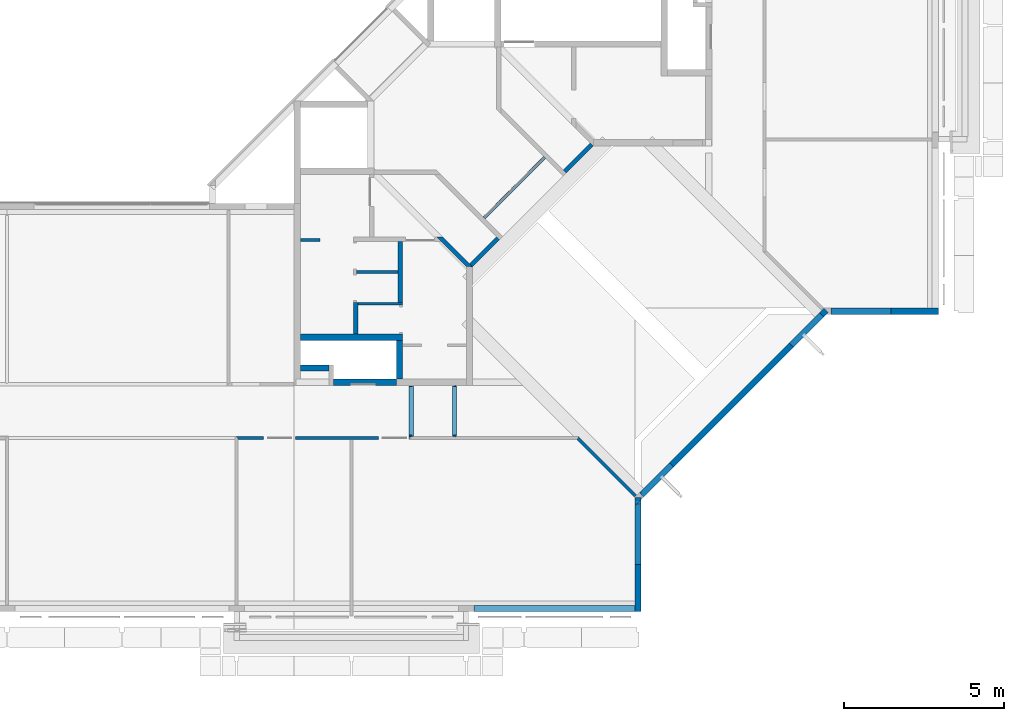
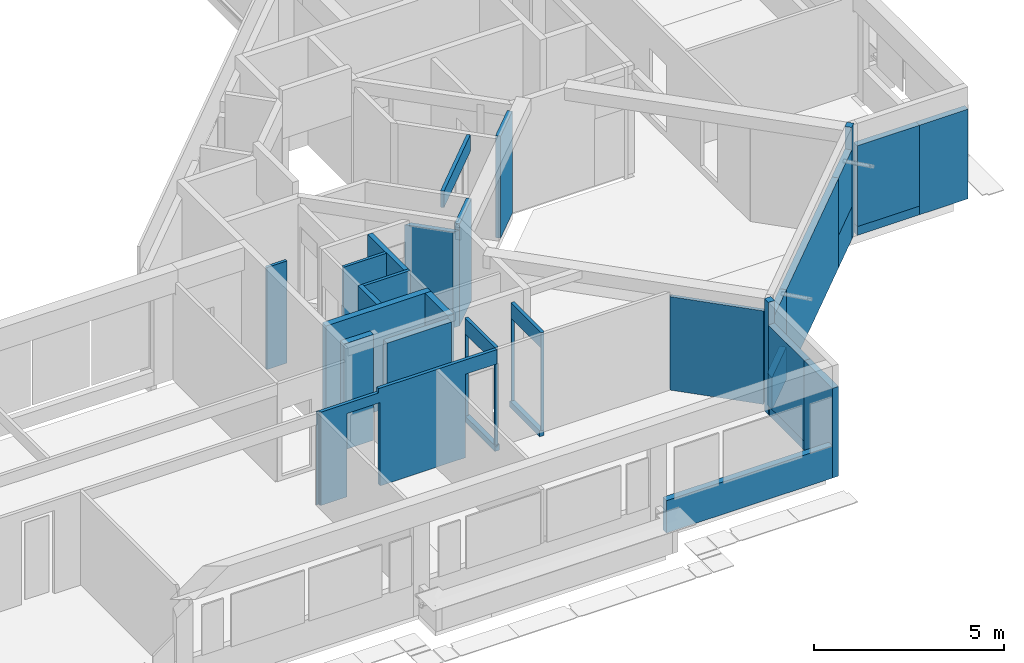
# One storey, part 12 of 38: 34 walls.
"""IFC4X3_ADD2 building model written with IfcOpenShell, lengths in millimetres."""

from ifc_helpers import new_model, si_unit, direction, frame, frame_2d, origin_with_axes, origin_2d_with_axis, place, context, subcontext, project, spatial, polyline, rectangle, outline, extrude, source, transform, mapped, material, type_object, type_shapes, element, save


model = new_model("IFC4X3_ADD2")

# Units and contexts
model_context = context("Model", 3, precision=1e-05, world=origin_with_axes(), true_north=direction((0.0, 1.0)))
body_context = subcontext(model_context, "Body", "Model", "MODEL_VIEW")
ifc_project = project(units=[si_unit("LENGTHUNIT", "METRE", prefix="MILLI"), si_unit("AREAUNIT", "SQUARE_METRE"), si_unit("VOLUMEUNIT", "CUBIC_METRE"), si_unit("PLANEANGLEUNIT", "RADIAN"), si_unit("TIMEUNIT", "SECOND"), si_unit("MASSUNIT", "GRAM")], contexts=[model_context])

# Site, building, storey
site_placement = place(None, origin_with_axes())
site = spatial("IfcSite", under=ifc_project, at=site_placement, Name="Site", CompositionType="ELEMENT")
building_placement = place(site_placement, origin_with_axes())
building = spatial("IfcBuilding", under=site, at=building_placement, Name="IFC Building Story")
storey_placement = place(building_placement, frame((0.0, 0.0, 10800.0), z_axis=(0.0, 0.0, 1.0), x_axis=(1.0, 0.0, 0.0)))
storey = spatial("IfcBuildingStorey", under=building, at=storey_placement, Name="030", Elevation=10800.0)

# Walls
ifc_material_1 = material(Name="BB_Beton_Bestaand")
wall_type_1 = type_object("IfcWallType", Name="BB_Beton_Bestaand 190", PredefinedType="NOTDEFINED", material=ifc_material_1)
wall_1_placement = place(storey_placement, origin_with_axes())
element("IfcWall", 1, at=wall_1_placement, inside=storey, type_object=wall_type_1, Name="Basic Wall:BB_XX_Wand uit beton, 190 mm", ObjectType="Basic Wall:BB_XX_Wand uit beton, 190 mm", PredefinedType="SOLIDWALL", context=body_context, shape_type="SweptSolid", body=[
    extrude(rectangle(XDim=5040.000000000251, YDim=190.0, at=origin_2d_with_axis()), frame((-11935.00000000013, 0.0, -200.0), z_axis=(0.0, 0.0, 1.0), x_axis=(1.0, 0.0, 0.0)), (0.0, 0.0, 1.0), 1040.0),
])
wall_2_placement = place(storey_placement, origin_with_axes())
element("IfcWall", 2, at=wall_2_placement, inside=storey, type_object=wall_type_1, Name="Basic Wall:BB_XX_Wand uit beton, 190 mm", ObjectType="Basic Wall:BB_XX_Wand uit beton, 190 mm", PredefinedType="SOLIDWALL", context=body_context, shape_type="SweptSolid", body=[
    extrude(rectangle(XDim=1480.0, YDim=190.0, at=frame_2d((0.0, 0.0), x_axis=(0.0, 1.0))), frame((-9320.0, 644.999999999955, -200.0), z_axis=(0.0, 0.0, 1.0), x_axis=(1.0, 0.0, 0.0)), (0.0, 0.0, 1.0), 2880.0),
])
wall_3_placement = place(storey_placement, origin_with_axes())
element("IfcWall", 3, at=wall_3_placement, inside=storey, type_object=wall_type_1, Name="Basic Wall:BB_XX_Wand uit beton, 190 mm", ObjectType="Basic Wall:BB_XX_Wand uit beton, 190 mm", PredefinedType="SOLIDWALL", context=body_context, shape_type="SweptSolid", body=[
    extrude(rectangle(XDim=1479.99999999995, YDim=190.0, at=origin_2d_with_axis()), frame((-644.999999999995, 9320.0, -200.0), z_axis=(0.0, 0.0, 1.0), x_axis=(1.0, 0.0, 0.0)), (0.0, 0.0, 1.0), 2880.0),
])
wall_4_placement = place(storey_placement, origin_with_axes())
element("IfcWall", 4, at=wall_4_placement, inside=storey, type_object=wall_type_1, Name="Basic Wall:BB_XX_Wand uit beton, 190 mm", ObjectType="Basic Wall:BB_XX_Wand uit beton, 190 mm", PredefinedType="SOLIDWALL", context=body_context, shape_type="SweptSolid", body=[
    extrude(rectangle(XDim=5311.437943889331, YDim=189.9999999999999, at=frame_2d((0.0, 0.0), x_axis=(0.7071067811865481, 0.7071067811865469))), frame((-6381.672618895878, 6381.67261889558, -200.0), z_axis=(0.0, 0.0, 1.0), x_axis=(1.0, 0.0, 0.0)), (0.0, 0.0, 1.0), 2880.0),
])
wall_5_placement = place(storey_placement, origin_with_axes())
element("IfcWall", 5, at=wall_5_placement, inside=storey, type_object=wall_type_1, Name="Basic Wall:BB_XX_Wand uit beton, 190 mm", ObjectType="Basic Wall:BB_XX_Wand uit beton, 190 mm", PredefinedType="SOLIDWALL", context=body_context, shape_type="SweptSolid", body=[
    extrude(outline(polyline([(549.9003877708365, 415.5500993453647), (-482.725243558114, -617.0755319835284), (-482.725243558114, -348.3749551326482), (415.550099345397, 549.9003877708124), (549.9003877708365, 415.5500993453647)])), frame((-8742.274756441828, 4021.070481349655, -200.0), z_axis=(0.0, 0.0, 1.0), x_axis=(1.0, 0.0, 0.0)), (0.0, 0.0, 1.0), 1040.0),
])
wall_6_placement = place(storey_placement, origin_with_axes())
element("IfcWall", 6, at=wall_6_placement, inside=storey, type_object=wall_type_1, Name="Basic Wall:BB_XX_Wand uit beton, 190 mm", ObjectType="Basic Wall:BB_XX_Wand uit beton, 190 mm", PredefinedType="SOLIDWALL", context=body_context, shape_type="SweptSolid", body=[
    extrude(rectangle(XDim=1331.35822331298, YDim=190.0, at=frame_2d((0.0, 0.0), x_axis=(0.7071067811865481, 0.7071067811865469))), frame((-4033.089510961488, 8730.25572682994, -200.0), z_axis=(0.0, 0.0, 1.0), x_axis=(1.0, 0.0, 0.0)), (0.0, 0.0, 1.0), 1040.0),
])
wall_7_placement = place(storey_placement, origin_with_axes())
element("IfcWall", 7, at=wall_7_placement, inside=storey, type_object=wall_type_1, Name="Basic Wall:BB_XX_Wand uit beton, 190 mm", ObjectType="Basic Wall:BB_XX_Wand uit beton, 190 mm", PredefinedType="SOLIDWALL", context=body_context, shape_type="SweptSolid", body=[
    extrude(rectangle(XDim=207.695526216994, YDim=190.0, at=frame_2d((0.0, 0.0), x_axis=(0.0, 1.0))), frame((-9320.0, 3378.847763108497, -200.0), z_axis=(0.0, 0.0, 1.0), x_axis=(1.0, 0.0, 0.0)), (0.0, 0.0, 1.0), 3600.0),
])
wall_8_placement = place(storey_placement, origin_with_axes())
element("IfcWall", 8, at=wall_8_placement, inside=storey, type_object=wall_type_1, Name="Basic Wall:BB_XX_Wand uit beton, 190 mm", ObjectType="Basic Wall:BB_XX_Wand uit beton, 190 mm", PredefinedType="SOLIDWALL", context=body_context, shape_type="SweptSolid", body=[
    extrude(rectangle(XDim=207.6955262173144, YDim=189.9999999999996, at=frame_2d((0.0, 0.0), x_axis=(0.7071067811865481, 0.7071067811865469))), frame((-3488.951839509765, 9274.393398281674, -200.0), z_axis=(0.0, 0.0, 1.0), x_axis=(1.0, 0.0, 0.0)), (0.0, 0.0, 1.0), 3600.000000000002),
])
wall_9_placement = place(storey_placement, origin_with_axes())
element("IfcWall", 9, at=wall_9_placement, inside=storey, type_object=wall_type_1, Name="Basic Wall:BB_XX_Wand uit beton, 190 mm", ObjectType="Basic Wall:BB_XX_Wand uit beton, 190 mm", PredefinedType="SOLIDWALL", context=body_context, shape_type="SweptSolid", body=[
    extrude(rectangle(XDim=2018.99494936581, YDim=190.0, at=frame_2d((0.0, 0.0), x_axis=(0.0, 1.0))), frame((-9320.0, 2394.497474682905, -200.0), z_axis=(0.0, 0.0, 1.0), x_axis=(1.0, 0.0, 0.0)), (0.0, 0.0, 1.0), 279.999999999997),
])
wall_10_placement = place(storey_placement, origin_with_axes())
element("IfcWall", 10, at=wall_10_placement, inside=storey, type_object=wall_type_1, Name="Basic Wall:BB_XX_Wand uit beton, 190 mm", ObjectType="Basic Wall:BB_XX_Wand uit beton, 190 mm", PredefinedType="SOLIDWALL", context=body_context, shape_type="SweptSolid", body=[
    extrude(rectangle(XDim=1890.00000000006, YDim=190.0, at=origin_2d_with_axis()), frame((-2330.0, 9320.0, -200.0), z_axis=(0.0, 0.0, 1.0), x_axis=(1.0, 0.0, 0.0)), (0.0, 0.0, 1.0), 279.999999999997),
])
wall_11_placement = place(storey_placement, origin_with_axes())
element("IfcWall", 11, at=wall_11_placement, inside=storey, type_object=wall_type_1, Name="Basic Wall:BB_XX_Wand uit beton, 190 mm", ObjectType="Basic Wall:BB_XX_Wand uit beton, 190 mm", PredefinedType="SOLIDWALL", context=body_context, shape_type="SweptSolid", body=[
    extrude(outline(polyline([(95.0, 1056.997474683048), (95.0, -961.9974746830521), (-95.0, -961.9974746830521), (-95.0, 866.9974746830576), (95.0, 1056.997474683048)])), frame((-9320.0, 2346.997474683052, -200.0), z_axis=(0.0, 0.0, 1.0), x_axis=(1.0, 0.0, 0.0)), (0.0, 0.0, 1.0), 279.999999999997),
])
ifc_material_2 = material(Name="BB_Metselwerk_Bestaand")
wall_type_2 = type_object("IfcWallType", Name="BB_Metselwerk_Bestaand 140", PredefinedType="NOTDEFINED", material=ifc_material_2)
wall_12_placement = place(storey_placement, origin_with_axes())
element("IfcWall", 12, at=wall_12_placement, inside=storey, type_object=wall_type_2, Name="Basic Wall:BB_XX_Wand uit metselwerk, 140 mm", ObjectType="Basic Wall:BB_XX_Wand uit metselwerk, 140 mm", PredefinedType="SOLIDWALL", context=body_context, shape_type="SweptSolid", body=[
    extrude(outline(polyline([(366.9974746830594, -465.9924240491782), (-565.9924240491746, 466.9974746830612), (-368.0025253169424, 466.9974746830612), (566.9974746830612, -468.002525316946), (366.9974746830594, -465.9924240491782)])), frame((-15066.99747468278, 11183.00252531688, -80.0), z_axis=(0.0, 0.0, 1.0), x_axis=(1.0, 0.0, 0.0)), (0.0, 0.0, 1.0), 3080.0),
])
wall_13_placement = place(storey_placement, origin_with_axes())
element("IfcWall", 13, at=wall_13_placement, inside=storey, type_object=wall_type_2, Name="Basic Wall:BB_XX_Wand uit metselwerk, 140 mm", ObjectType="Basic Wall:BB_XX_Wand uit metselwerk, 140 mm", PredefinedType="SOLIDWALL", context=body_context, shape_type="SweptSolid", body=[
    extrude(rectangle(XDim=1000.0, YDim=140.0, at=frame_2d((0.0, 0.0), x_axis=(0.0, 1.0))), frame((-18170.0, 9100.0, -80.0), z_axis=(0.0, 0.0, 1.0), x_axis=(1.0, 0.0, 0.0)), (0.0, 0.0, 1.0), 3280.0),
])
wall_14_placement = place(storey_placement, origin_with_axes())
element("IfcWall", 14, at=wall_14_placement, inside=storey, type_object=wall_type_2, Name="Basic Wall:BB_XX_Wand uit metselwerk, 140 mm", ObjectType="Basic Wall:BB_XX_Wand uit metselwerk, 140 mm", PredefinedType="SOLIDWALL", context=body_context, shape_type="SweptSolid", body=[
    extrude(rectangle(XDim=1910.00000000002, YDim=140.0, at=frame_2d((0.0, 0.0), x_axis=(0.0, 1.0))), frame((-16770.0, 10554.99999999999, -80.0), z_axis=(0.0, 0.0, 1.0), x_axis=(1.0, 0.0, 0.0)), (0.0, 0.0, 1.0), 3280.0),
])
wall_type_3 = type_object("IfcWallType", Name="BB_Metselwerk_Bestaand 190", PredefinedType="NOTDEFINED", material=ifc_material_2)
wall_15_placement = place(storey_placement, origin_with_axes())
element("IfcWall", 15, at=wall_15_placement, inside=storey, type_object=wall_type_3, Name="Basic Wall:BB_XX_Wand uit metselwerk, 190 mm", ObjectType="Basic Wall:BB_XX_Wand uit metselwerk, 190 mm", PredefinedType="SOLIDWALL", context=body_context, shape_type="SweptSolid", body=[
    extrude(rectangle(XDim=1970.164079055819, YDim=190.0, at=origin_2d_with_axis()), frame((-17875.08203952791, 7095.0, -200.0), z_axis=(0.0, 0.0, 1.0), x_axis=(1.0, 0.0, 0.0)), (0.0, 0.0, 1.0), 3340.0),
])
wall_16_placement = place(storey_placement, origin_with_axes())
element("IfcWall", 16, at=wall_16_placement, inside=storey, type_object=wall_type_3, Name="Basic Wall:BB_XX_Wand uit metselwerk, 190 mm", ObjectType="Basic Wall:BB_XX_Wand uit metselwerk, 190 mm", PredefinedType="SOLIDWALL", context=body_context, shape_type="SweptSolid", body=[
    extrude(rectangle(XDim=899.8359209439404, YDim=190.0, at=origin_2d_with_axis()), frame((-19450.08203952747, 7545.0, -200.0), z_axis=(0.0, 0.0, 1.0), x_axis=(1.0, 0.0, 0.0)), (0.0, 0.0, 1.0), 3400.0),
])
wall_17_placement = place(storey_placement, origin_with_axes())
element("IfcWall", 17, at=wall_17_placement, inside=storey, type_object=wall_type_3, Name="Basic Wall:BB_XX_Wand uit metselwerk, 190 mm", ObjectType="Basic Wall:BB_XX_Wand uit metselwerk, 190 mm", PredefinedType="SOLIDWALL", context=body_context, shape_type="SweptSolid", body=[
    extrude(rectangle(XDim=3199.884221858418, YDim=190.0, at=origin_2d_with_axis()), frame((-18300.05788907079, 8505.0, -80.0), z_axis=(0.0, 0.0, 1.0), x_axis=(1.0, 0.0, 0.0)), (0.0, 0.0, 1.0), 3280.0),
])
wall_18_placement = place(storey_placement, origin_with_axes())
element("IfcWall", 18, at=wall_18_placement, inside=storey, type_object=wall_type_3, Name="Basic Wall:BB_XX_Wand uit metselwerk, 190 mm", ObjectType="Basic Wall:BB_XX_Wand uit metselwerk, 190 mm", PredefinedType="SOLIDWALL", context=body_context, shape_type="SweptSolid", body=[
    extrude(rectangle(XDim=1210.00000000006, YDim=190.0, at=frame_2d((0.0, 0.0), x_axis=(0.0, 1.0))), frame((-16795.1157781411, 7804.99999999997, -80.0), z_axis=(0.0, 0.0, 1.0), x_axis=(1.0, 0.0, 0.0)), (0.0, 0.0, 1.0), 3280.0),
])
ifc_material_3 = material(Name="BB_Metselwerk_Betonsteen")
wall_type_4 = type_object("IfcWallType", Name="BB_Metselwerk_Betonsteen 190", PredefinedType="NOTDEFINED", material=ifc_material_3)
wall_19_placement = place(storey_placement, origin_with_axes())
element("IfcWall", 19, at=wall_19_placement, inside=storey, type_object=wall_type_4, Name="Basic Wall:BB_03.09.24#03_Wand uit metselwerk, 190 mm", ObjectType="Basic Wall:BB_03.09.24#03_Wand uit metselwerk, 190 mm", PredefinedType="SOLIDWALL", context=body_context, shape_type="SweptSolid", body=[
    extrude(rectangle(XDim=1890.00000000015, YDim=190.0, at=frame_2d((0.0, 0.0), x_axis=(0.0, 1.0))), frame((-9320.0, 2329.999999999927, 80.0), z_axis=(0.0, 0.0, 1.0), x_axis=(1.0, 0.0, 0.0)), (0.0, 0.0, 1.0), 2600.0),
])
wall_20_placement = place(storey_placement, origin_with_axes())
element("IfcWall", 20, at=wall_20_placement, inside=storey, type_object=wall_type_4, Name="Basic Wall:BB_03.09.24#03_Wand uit metselwerk, 190 mm", ObjectType="Basic Wall:BB_03.09.24#03_Wand uit metselwerk, 190 mm", PredefinedType="SOLIDWALL", context=body_context, shape_type="SweptSolid", body=[
    extrude(rectangle(XDim=1890.00000000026, YDim=190.0, at=origin_2d_with_axis()), frame((-2329.99999999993, 9320.0, 80.0), z_axis=(0.0, 0.0, 1.0), x_axis=(1.0, 0.0, 0.0)), (0.0, 0.0, 1.0), 2600.0),
])
wall_21_placement = place(storey_placement, origin_with_axes())
element("IfcWall", 21, at=wall_21_placement, inside=storey, type_object=wall_type_4, Name="Basic Wall:BB_03.09.24#03_Wand uit metselwerk, 190 mm", ObjectType="Basic Wall:BB_03.09.24#03_Wand uit metselwerk, 190 mm", PredefinedType="SOLIDWALL", context=body_context, shape_type="SweptSolid", body=[
    extrude(rectangle(XDim=1331.35822331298, YDim=190.0, at=frame_2d((0.0, 0.0), x_axis=(0.7071067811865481, 0.7071067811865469))), frame((-4033.089510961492, 8730.25572682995, 840.0), z_axis=(0.0, 0.0, 1.0), x_axis=(1.0, 0.0, 0.0)), (0.0, 0.0, 1.0), 1840.0),
])
wall_22_placement = place(storey_placement, origin_with_axes())
element("IfcWall", 22, at=wall_22_placement, inside=storey, type_object=wall_type_4, Name="Basic Wall:BB_03.09.24#03_Wand uit metselwerk, 190 mm", ObjectType="Basic Wall:BB_03.09.24#03_Wand uit metselwerk, 190 mm", PredefinedType="SOLIDWALL", context=body_context, shape_type="SweptSolid", body=[
    extrude(rectangle(XDim=1331.0, YDim=190.0, at=frame_2d((0.0, 0.0), x_axis=(0.7071067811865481, 0.7071067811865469))), frame((-8730.129075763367, 4033.216162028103, 840.0), z_axis=(0.0, 0.0, 1.0), x_axis=(1.0, 0.0, 0.0)), (0.0, 0.0, 1.0), 1840.0),
])
wall_type_5 = type_object("IfcWallType", Name="Basic Wall_BB_10.01.41#21_Gipskartonwand_EI60_43dB_MS100 _ 25.50.25_ 100 mm81", PredefinedType="NOTDEFINED")
shared_shape_1 = source(origin_with_axes(), body_context, "Body", "SweptSolid", [
    extrude(outline(polyline([(-1281.275160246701, 6.249999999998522), (1287.525160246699, 6.250000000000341), (1287.525160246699, -6.249999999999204), (-1293.775160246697, -6.249999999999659), (-1281.275160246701, 6.249999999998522)])), frame((1257.53147353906, 43.74999999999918, 0.0), z_axis=(0.0, 0.0, 1.0), x_axis=(1.0, 0.0, 0.0)), (0.0, 0.0, 1.0), 3005.0),
    extrude(outline(polyline([(-1291.18632548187, -6.250000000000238), (-1278.68632548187, 6.250000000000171), (1284.93632548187, 6.250000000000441), (1284.93632548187, -6.250000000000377), (-1291.18632548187, -6.250000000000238)])), frame((1260.12030830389, 31.25000000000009, 0.0), z_axis=(0.0, 0.0, 1.0), x_axis=(1.0, 0.0, 0.0)), (0.0, 0.0, 1.0), 3005.0),
    extrude(outline(polyline([(-1290.20598642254, -25.00000000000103), (-1240.20598642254, 25.0), (1265.20598642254, 25.0), (1265.20598642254, -24.99999999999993), (-1290.20598642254, -25.00000000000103)])), frame((1279.85064736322, 0.0, 0.0), z_axis=(0.0, 0.0, 1.0), x_axis=(1.0, 0.0, 0.0)), (0.0, 0.0, 1.0), 3005.0),
    extrude(outline(polyline([(-1278.24215165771, -6.249999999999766), (-1265.74215165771, 6.249999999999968), (1271.99215165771, 6.249999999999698), (1271.99215165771, -6.249999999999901), (-1278.24215165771, -6.249999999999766)])), frame((1273.06448212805, -31.25000000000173, 0.0), z_axis=(0.0, 0.0, 1.0), x_axis=(1.0, 0.0, 0.0)), (0.0, 0.0, 1.0), 3005.0),
    extrude(outline(polyline([(1269.40331689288, -6.250000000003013), (-1275.65331689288, -6.249999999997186), (-1263.15331689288, 6.250000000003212), (1269.40331689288, 6.249999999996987), (1269.40331689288, -6.250000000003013)])), frame((1275.65331689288, -43.75000000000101, 0.0), z_axis=(0.0, 0.0, 1.0), x_axis=(1.0, 0.0, 0.0)), (0.0, 0.0, 1.0), 3005.0),
])
type_shapes(wall_type_5, [shared_shape_1])
wall_23_placement = place(storey_placement, frame((-11196.949134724, 5335.35533905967, -5.0), z_axis=(0.0, 0.0, 1.0), x_axis=(0.7071067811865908, -0.7071067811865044, 0.0)))
element("IfcWall", 23, at=wall_23_placement, inside=storey, type_object=wall_type_5, Name="Basic Wall:BB_10.01.41#21_Gipskartonwand_EI60_43dB_MS100 / 25.50.25, 100 mm", ObjectType="Basic Wall:BB_10.01.41#21_Gipskartonwand_EI60_43dB_MS100 / 25.50.25, 100 mm", PredefinedType="PARTITIONING", context=body_context, shape_type="MappedRepresentation", body=[
    mapped(shared_shape_1, transform((0.0, 0.0, 0.0))),
])
wall_type_6 = type_object("IfcWallType", Name="Basic Wall_BB_10.01.41#03_Gipskartonwand_43dB_MS100 _ 25.50.25_ 100 mm71", PredefinedType="NOTDEFINED")
shared_shape_2 = source(origin_with_axes(), body_context, "Body", "SweptSolid", [
    extrude(outline(polyline([(-2064.583333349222, 1916.666666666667), (535.4166666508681, 1916.666666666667), (535.4166666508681, -763.3333333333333), (1535.416666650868, -763.3333333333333), (1535.416666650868, 1916.666666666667), (2422.916666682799, 1916.666666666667), (2422.916666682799, -1083.333333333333), (585.4166666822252, -1083.333333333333), (585.4166666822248, -1223.333333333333), (-3014.583333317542, -1223.333333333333), (-3014.583333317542, -763.3333333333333), (-2064.583333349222, -763.3333333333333), (-2064.583333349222, 1916.666666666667)])), frame((3014.583333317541, -50.0, 1916.666666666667), z_axis=(0.0, 1.0, 0.0), x_axis=(1.0, 0.0, 0.0)), (0.0, 0.0, 1.0), 12.5000000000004),
    extrude(outline(polyline([(1537.499999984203, -763.3333333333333), (1537.499999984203, 1916.666666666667), (2412.500000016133, 1916.666666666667), (2412.500000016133, -1083.333333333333), (587.5000000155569, -1083.333333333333), (587.5000000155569, -1223.333333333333), (-3012.499999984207, -1223.333333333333), (-3012.499999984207, -763.3333333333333), (-2062.500000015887, -763.3333333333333), (-2062.500000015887, 1916.666666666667), (537.4999999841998, 1916.666666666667), (537.4999999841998, -763.3333333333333), (1537.499999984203, -763.3333333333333)])), frame((3012.499999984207, -37.5000000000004, 1916.666666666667), z_axis=(0.0, 1.0, 0.0), x_axis=(1.0, 0.0, 0.0)), (0.0, 0.0, 1.0), 12.5000000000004),
    extrude(outline(polyline([(1545.833333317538, -763.3333333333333), (1545.833333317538, 1916.666666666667), (2370.833333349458, 1916.666666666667), (2370.833333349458, -1083.333333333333), (595.8333333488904, -1083.333333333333), (595.8333333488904, -1223.333333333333), (-3004.166666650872, -1223.333333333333), (-3004.166666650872, -763.3333333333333), (-2054.166666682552, -763.3333333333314), (-2054.166666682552, 1916.666666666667), (545.8333333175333, 1916.666666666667), (545.8333333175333, -763.3333333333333), (1545.833333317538, -763.3333333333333)])), frame((3004.166666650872, -24.9999999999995, 1916.666666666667), z_axis=(0.0, 1.0, 0.0), x_axis=(1.0, 0.0, 0.0)), (0.0, 0.0, 1.0), 49.9999999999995),
    extrude(outline(polyline([(1547.916666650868, -763.3333333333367), (1547.916666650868, 1916.666666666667), (2360.416666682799, 1916.666666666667), (2360.416666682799, -1083.333333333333), (597.9166666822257, -1083.333333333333), (597.9166666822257, -1223.333333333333), (-3002.083333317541, -1223.333333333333), (-3002.083333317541, -763.333333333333), (-2052.083333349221, -763.333333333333), (-2052.083333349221, 1916.666666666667), (547.916666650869, 1916.666666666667), (547.9166666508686, -763.333333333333), (1547.916666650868, -763.3333333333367)])), frame((3002.083333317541, 24.9999999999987, 1916.666666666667), z_axis=(0.0, 1.0, 0.0), x_axis=(1.0, 0.0, 0.0)), (0.0, 0.0, 1.0), 12.5000000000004),
    extrude(outline(polyline([(2350.000000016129, 1916.666666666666), (2350.000000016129, -1083.333333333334), (600.0000000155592, -1083.333333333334), (600.0000000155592, -1223.333333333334), (-2999.999999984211, -1223.333333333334), (-2999.999999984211, -763.3333333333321), (-2050.000000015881, -763.3333333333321), (-2050.000000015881, 1916.666666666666), (549.9999999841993, 1916.666666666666), (549.9999999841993, -763.3333333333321), (1549.9999999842, -763.3333333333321), (1549.9999999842, 1916.666666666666), (2350.000000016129, 1916.666666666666)])), frame((2999.999999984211, 37.50000000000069, 1916.666666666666), z_axis=(0.0, 1.0, 0.0), x_axis=(1.0, 0.0, 0.0)), (0.0, 0.0, 1.0), 12.49999999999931),
])
type_shapes(wall_type_6, [shared_shape_2])
wall_24_placement = place(storey_placement, frame((-16500.0, 5350.0, 0.0), z_axis=(0.0, 0.0, 1.0), x_axis=(-1.0, 0.0, 0.0)))
element("IfcWall", 24, at=wall_24_placement, inside=storey, type_object=wall_type_6, Name="Basic Wall:BB_10.01.41#03_Gipskartonwand_43dB_MS100 / 25.50.25, 100 mm", ObjectType="Basic Wall:BB_10.01.41#03_Gipskartonwand_43dB_MS100 / 25.50.25, 100 mm", PredefinedType="PARTITIONING", context=body_context, shape_type="MappedRepresentation", body=[
    mapped(shared_shape_2, transform((0.0, 0.0, 0.0))),
])
wall_type_7 = type_object("IfcWallType", Name="Basic Wall_BB_10.01.41#21_Gipskartonwand_EI60_43dB_MS100 _ 25.50.25_ 100 mm85", PredefinedType="NOTDEFINED")
shared_shape_3 = source(origin_with_axes(), body_context, "Body", "SweptSolid", [
    extrude(outline(polyline([(-514.5833333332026, 969.1666666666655), (-479.5833333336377, 969.1666666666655), (-479.5833333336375, -1680.833333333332), (1040.416666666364, -1680.833333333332), (1040.416666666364, 969.1666666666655), (1070.416666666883, 969.1666666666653), (1070.416666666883, -2180.833333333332), (-514.5833333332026, -2180.833333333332), (-514.5833333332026, 959.1666666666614), (-602.0833333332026, 959.1666666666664), (-602.0833333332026, 964.1666666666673), (-514.5833333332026, 964.1666666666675), (-514.5833333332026, 969.1666666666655)])), frame((514.5833333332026, 37.50000000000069, 969.1666666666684), z_axis=(0.0, 1.0, 0.0), x_axis=(1.0, 0.0, 0.0)), (0.0, 0.0, 1.0), 12.49999999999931),
    extrude(outline(polyline([(-516.6666666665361, 969.1666666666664), (-481.6666666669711, 969.1666666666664), (-481.666666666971, -1680.833333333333), (1038.33333333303, -1680.833333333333), (1038.33333333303, 969.1666666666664), (1068.33333333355, 969.1666666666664), (1068.33333333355, -2180.833333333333), (-516.6666666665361, -2180.833333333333), (-516.6666666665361, 959.1666666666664), (-591.6666666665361, 959.1666666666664), (-591.6666666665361, 964.1666666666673), (-516.6666666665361, 964.1666666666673), (-516.6666666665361, 969.1666666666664)])), frame((516.6666666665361, 24.999999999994, 969.1666666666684), z_axis=(0.0, 1.0, 0.0), x_axis=(1.0, 0.0, 0.0)), (0.0, 0.0, 1.0), 12.4999999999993),
    extrude(outline(polyline([(-524.9999999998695, 969.1666666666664), (-490.0000000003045, 969.1666666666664), (-490.0000000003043, -1680.833333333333), (1029.999999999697, -1680.833333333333), (1029.999999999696, 969.1666666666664), (1060.000000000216, 969.1666666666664), (1060.000000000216, -2180.833333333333), (-524.9999999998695, -2180.833333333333), (-524.9999999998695, 959.1666666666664), (-549.9999999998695, 959.1666666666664), (-549.9999999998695, 964.1666666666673), (-524.9999999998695, 964.1666666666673), (-524.9999999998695, 969.1666666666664)])), frame((524.9999999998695, -25.0000000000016, 969.1666666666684), z_axis=(0.0, 1.0, 0.0), x_axis=(1.0, 0.0, 0.0)), (0.0, 0.0, 1.0), 50.00000000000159),
    extrude(outline(polyline([(-527.0833333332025, 969.1666666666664), (-492.0833333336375, 969.1666666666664), (-492.0833333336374, -1680.833333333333), (1027.916666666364, -1680.833333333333), (1027.916666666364, 969.1666666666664), (1057.916666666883, 969.1666666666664), (1057.916666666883, -2180.833333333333), (-527.0833333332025, -2180.833333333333), (-527.0833333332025, 959.1666666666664), (-539.5833333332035, 959.1666666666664), (-539.5833333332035, 964.1666666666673), (-527.0833333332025, 964.1666666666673), (-527.0833333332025, 969.1666666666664)])), frame((527.0833333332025, -37.49999999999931, 969.1666666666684), z_axis=(0.0, 1.0, 0.0), x_axis=(1.0, 0.0, 0.0)), (0.0, 0.0, 1.0), 12.49999999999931),
    extrude(outline(polyline([(-793.7499999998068, 1450.0), (-758.7500000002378, 1450.0), (-758.7500000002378, -1200.000000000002), (761.249999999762, -1200.0), (761.249999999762, 1450.0), (791.2500000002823, 1450.0), (791.2500000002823, -1700.0), (-793.7499999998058, -1700.0), (-793.7499999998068, 1450.0)])), frame((793.7499999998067, -49.9999999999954, 1450.0), z_axis=(0.0, 1.0, 0.0), x_axis=(1.0, 0.0, 0.0)), (0.0, 0.0, 1.0), 12.49999999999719),
])
type_shapes(wall_type_7, [shared_shape_3])
wall_25_placement = place(storey_placement, frame((-16450.0, 5400.0, -10.0), z_axis=(0.0, 0.0, 1.0), x_axis=(0.0, 1.0, 0.0)))
element("IfcWall", 25, at=wall_25_placement, inside=storey, type_object=wall_type_7, Name="Basic Wall:BB_10.01.41#21_Gipskartonwand_EI60_43dB_MS100 / 25.50.25, 100 mm", ObjectType="Basic Wall:BB_10.01.41#21_Gipskartonwand_EI60_43dB_MS100 / 25.50.25, 100 mm", PredefinedType="PARTITIONING", context=body_context, shape_type="MappedRepresentation", body=[
    mapped(shared_shape_3, transform((0.0, 0.0, 0.0))),
])
wall_type_8 = type_object("IfcWallType", Name="Basic Wall_BB_10.01.41#21_Gipskartonwand_EI60_43dB_MS100 _ 25.50.25_ 100 mm87", PredefinedType="NOTDEFINED")
shared_shape_4 = source(origin_with_axes(), body_context, "Body", "SweptSolid", [
    extrude(outline(polyline([(-793.7499999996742, 1450.0), (-758.7500000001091, 1450.0), (-758.7500000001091, -1200.000000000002), (761.2499999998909, -1200.000000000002), (761.2499999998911, 1450.0), (791.249999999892, 1450.0), (791.249999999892, -1699.999999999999), (-793.7499999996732, -1699.999999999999), (-793.7499999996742, 1450.0)])), frame((793.7499999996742, 37.50000000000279, 1450.0), z_axis=(0.0, 1.0, 0.0), x_axis=(1.0, 0.0, 0.0)), (0.0, 0.0, 1.0), 12.49999999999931),
    extrude(outline(polyline([(-632.499999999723, 1161.000000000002), (-597.50000000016, 1161.000000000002), (-597.5000000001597, -1489.000000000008), (922.4999999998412, -1489.000000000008), (922.4999999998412, 1161.000000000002), (952.4999999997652, 1161.000000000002), (952.4999999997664, -1988.999999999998), (-644.999999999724, -1988.999999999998), (-644.999999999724, 1156.000000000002), (-632.499999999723, 1156.000000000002), (-632.499999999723, 1161.000000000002)])), frame((632.499999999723, 25.0, 1161.000000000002), z_axis=(0.0, 1.0, 0.0), x_axis=(1.0, 0.0, 0.0)), (0.0, 0.0, 1.0), 12.49999999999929),
    extrude(outline(polyline([(-791.6666666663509, 1415.833333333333), (-756.6666666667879, 1415.833333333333), (-756.6666666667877, -1234.166666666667), (763.3333333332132, -1234.166666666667), (763.3333333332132, 1415.833333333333), (808.3333333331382, 1415.833333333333), (808.3333333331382, -1274.166666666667), (793.3333333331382, -1274.166666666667), (793.3333333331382, -1734.166666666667), (-816.6666666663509, -1734.166666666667), (-816.6666666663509, 1410.833333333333), (-791.6666666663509, 1410.833333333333), (-791.6666666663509, 1415.833333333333)])), frame((791.6666666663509, -25.0000000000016, 1415.833333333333), z_axis=(0.0, 1.0, 0.0), x_axis=(1.0, 0.0, 0.0)), (0.0, 0.0, 1.0), 50.00000000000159),
    extrude(outline(polyline([(-793.7499999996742, 1450.0), (-758.7500000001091, 1450.0), (-758.7500000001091, -1200.000000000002), (761.2499999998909, -1200.000000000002), (761.2499999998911, 1450.0), (791.249999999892, 1450.0), (791.249999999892, -1699.999999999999), (-793.7499999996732, -1699.999999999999), (-793.7499999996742, 1450.0)])), frame((793.749999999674, -37.49999999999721, 1450.0), z_axis=(0.0, 1.0, 0.0), x_axis=(1.0, 0.0, 0.0)), (0.0, 0.0, 1.0), 12.5000000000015),
    extrude(outline(polyline([(-793.7499999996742, 1450.0), (-758.7500000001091, 1450.0), (-758.7500000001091, -1200.000000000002), (761.2499999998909, -1200.000000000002), (761.2499999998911, 1450.0), (791.249999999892, 1450.0), (791.249999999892, -1699.999999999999), (-793.7499999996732, -1699.999999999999), (-793.7499999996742, 1450.0)])), frame((793.7499999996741, -49.99999999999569, 1450.0), z_axis=(0.0, 1.0, 0.0), x_axis=(1.0, 0.0, 0.0)), (0.0, 0.0, 1.0), 12.4999999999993),
])
type_shapes(wall_type_8, [shared_shape_4])
wall_26_placement = place(storey_placement, frame((-15050.0, 5400.0, -10.0), z_axis=(0.0, 0.0, 1.0), x_axis=(0.0, 1.0, 0.0)))
element("IfcWall", 26, at=wall_26_placement, inside=storey, type_object=wall_type_8, Name="Basic Wall:BB_10.01.41#21_Gipskartonwand_EI60_43dB_MS100 / 25.50.25, 100 mm", ObjectType="Basic Wall:BB_10.01.41#21_Gipskartonwand_EI60_43dB_MS100 / 25.50.25, 100 mm", PredefinedType="PARTITIONING", context=body_context, shape_type="MappedRepresentation", body=[
    mapped(shared_shape_4, transform((0.0, 0.0, 0.0))),
])
wall_type_9 = type_object("IfcWallType", Name="Basic Wall_BB_10.01.41#21_Gipskartonwand_EI60_43dB_MS100 _ 25.50.25_ 100 mm89", PredefinedType="NOTDEFINED")
shared_shape_5 = source(origin_with_axes(), body_context, "Body", "SweptSolid", [
    extrude(rectangle(XDim=2679.99999999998, YDim=12.49999999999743, at=origin_2d_with_axis()), frame((1340.0, 43.74999999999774, 0.0), z_axis=(0.0, 0.0, 1.0), x_axis=(1.0, 0.0, 0.0)), (0.0, 0.0, 1.0), 530.000000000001),
    extrude(rectangle(XDim=2680.0, YDim=12.5000000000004, at=origin_2d_with_axis()), frame((1339.999999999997, 31.2499999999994, 0.0), z_axis=(0.0, 0.0, 1.0), x_axis=(1.0, 0.0, 0.0)), (0.0, 0.0, 1.0), 530.0),
    extrude(rectangle(XDim=2680.0, YDim=50.0000000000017, at=origin_2d_with_axis()), frame((1339.999999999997, 0.0, 0.0), z_axis=(0.0, 0.0, 1.0), x_axis=(1.0, 0.0, 0.0)), (0.0, 0.0, 1.0), 530.0),
    extrude(rectangle(XDim=2680.0, YDim=12.5000000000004, at=origin_2d_with_axis()), frame((1339.999999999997, -31.2500000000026, 0.0), z_axis=(0.0, 0.0, 1.0), x_axis=(1.0, 0.0, 0.0)), (0.0, 0.0, 1.0), 530.0),
    extrude(rectangle(XDim=2679.99999999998, YDim=12.50000000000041, at=origin_2d_with_axis()), frame((1340.000000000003, -43.750000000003, 0.0), z_axis=(0.0, 0.0, 1.0), x_axis=(1.0, 0.0, 0.0)), (0.0, 0.0, 1.0), 530.0),
])
type_shapes(wall_type_9, [shared_shape_5])
wall_27_placement = place(storey_placement, frame((-12250.7164409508, 14145.762614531, 2670.0), z_axis=(0.0, 0.0, 1.0), x_axis=(-0.7071067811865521, -0.707106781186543, 0.0)))
element("IfcWall", 27, at=wall_27_placement, inside=storey, type_object=wall_type_9, Name="Basic Wall:BB_10.01.41#21_Gipskartonwand_EI60_43dB_MS100 / 25.50.25, 100 mm", ObjectType="Basic Wall:BB_10.01.41#21_Gipskartonwand_EI60_43dB_MS100 / 25.50.25, 100 mm", PredefinedType="PARTITIONING", context=body_context, shape_type="MappedRepresentation", body=[
    mapped(shared_shape_5, transform((0.0, 0.0, 0.0))),
])
wall_type_10 = type_object("IfcWallType", Name="BB_Metselwerk_Betonsteen 140", PredefinedType="NOTDEFINED", material=ifc_material_3)
wall_28_placement = place(storey_placement, origin_with_axes())
element("IfcWall", 28, at=wall_28_placement, inside=storey, type_object=wall_type_10, Name="Basic Wall:BB_03.09.24#02_Wand uit metselwerk_EI60_43dB, 140 mm", ObjectType="Basic Wall:BB_03.09.24#02_Wand uit metselwerk_EI60_43dB, 140 mm", PredefinedType="SOLIDWALL", context=body_context, shape_type="SweptSolid", body=[
    extrude(rectangle(XDim=1195.0, YDim=140.0, at=frame_2d((0.0, 0.0), x_axis=(0.7071067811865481, 0.7071067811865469))), frame((-11188.28850221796, 14126.31717804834, -80.0), z_axis=(0.0, 0.0, 1.0), x_axis=(1.0, 0.0, 0.0)), (0.0, 0.0, 1.0), 3280.0),
])
wall_29_placement = place(storey_placement, origin_with_axes())
element("IfcWall", 29, at=wall_29_placement, inside=storey, type_object=wall_type_10, Name="Basic Wall:BB_03.09.24#02_Wand uit metselwerk_EI60_43dB, 140 mm", ObjectType="Basic Wall:BB_03.09.24#02_Wand uit metselwerk_EI60_43dB, 140 mm", PredefinedType="SOLIDWALL", context=body_context, shape_type="SweptSolid", body=[
    extrude(rectangle(XDim=1584.99999999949, YDim=139.9999999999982, at=frame_2d((0.0, 0.0), x_axis=(0.0, 1.0))), frame((-15070.0, 6192.50000000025, -200.0), z_axis=(0.0, 0.0, 1.0), x_axis=(1.0, 0.0, 0.0)), (0.0, 0.0, 1.0), 190.0),
])
wall_30_placement = place(storey_placement, origin_with_axes())
element("IfcWall", 30, at=wall_30_placement, inside=storey, type_object=wall_type_10, Name="Basic Wall:BB_03.09.24#02_Wand uit metselwerk_EI60_43dB, 140 mm", ObjectType="Basic Wall:BB_03.09.24#02_Wand uit metselwerk_EI60_43dB, 140 mm", PredefinedType="SOLIDWALL", context=body_context, shape_type="SweptSolid", body=[
    extrude(rectangle(XDim=1584.99999999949, YDim=140.0, at=frame_2d((0.0, 0.0), x_axis=(0.0, 1.0))), frame((-16430.0, 6192.500000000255, -200.0), z_axis=(0.0, 0.0, 1.0), x_axis=(1.0, 0.0, 0.0)), (0.0, 0.0, 1.0), 190.0),
])
wall_31_placement = place(storey_placement, origin_with_axes())
element("IfcWall", 31, at=wall_31_placement, inside=storey, type_object=wall_type_10, Name="Basic Wall:BB_03.09.24#02_Wand uit metselwerk_EI60_43dB, 140 mm", ObjectType="Basic Wall:BB_03.09.24#02_Wand uit metselwerk_EI60_43dB, 140 mm", PredefinedType="SOLIDWALL", context=body_context, shape_type="SweptSolid", body=[
    extrude(rectangle(XDim=1195.0, YDim=140.0, at=frame_2d((0.0, 0.0), x_axis=(0.7071067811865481, 0.7071067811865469))), frame((-14126.31717804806, 11188.28850221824, -80.0), z_axis=(0.0, 0.0, 1.0), x_axis=(1.0, 0.0, 0.0)), (0.0, 0.0, 1.0), 3280.0),
])
wall_type_11 = type_object("IfcWallType", Name="BB_Metselwerk_Bestaand 90", PredefinedType="NOTDEFINED", material=ifc_material_2)
wall_32_placement = place(storey_placement, origin_with_axes())
element("IfcWall", 32, at=wall_32_placement, inside=storey, type_object=wall_type_11, Name="Basic Wall:BB_XX_Wand uit metselwerk, 90 mm", ObjectType="Basic Wall:BB_XX_Wand uit metselwerk, 90 mm", PredefinedType="SOLIDWALL", context=body_context, shape_type="SweptSolid", body=[
    extrude(rectangle(XDim=610.00000000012, YDim=90.0, at=origin_2d_with_axis()), frame((-19594.99999999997, 11555.0, -80.0), z_axis=(0.0, 0.0, 1.0), x_axis=(1.0, 0.0, 0.0)), (0.0, 0.0, 1.0), 3280.0),
])
wall_33_placement = place(storey_placement, origin_with_axes())
element("IfcWall", 33, at=wall_33_placement, inside=storey, type_object=wall_type_11, Name="Basic Wall:BB_XX_Wand uit metselwerk, 90 mm", ObjectType="Basic Wall:BB_XX_Wand uit metselwerk, 90 mm", PredefinedType="SOLIDWALL", context=body_context, shape_type="SweptSolid", body=[
    extrude(rectangle(XDim=1399.999999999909, YDim=90.0, at=origin_2d_with_axis()), frame((-17400.0, 9555.0, -80.0), z_axis=(0.0, 0.0, 1.0), x_axis=(1.0, 0.0, 0.0)), (0.0, 0.0, 1.0), 3280.0),
])
wall_34_placement = place(storey_placement, origin_with_axes())
element("IfcWall", 34, at=wall_34_placement, inside=storey, type_object=wall_type_11, Name="Basic Wall:BB_XX_Wand uit metselwerk, 90 mm", ObjectType="Basic Wall:BB_XX_Wand uit metselwerk, 90 mm", PredefinedType="SOLIDWALL", context=body_context, shape_type="SweptSolid", body=[
    extrude(rectangle(XDim=1309.999999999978, YDim=90.0, at=origin_2d_with_axis()), frame((-17495.0, 10555.0, -80.0), z_axis=(0.0, 0.0, 1.0), x_axis=(1.0, 0.0, 0.0)), (0.0, 0.0, 1.0), 3280.0),
])

save(model, "model.ifc")
